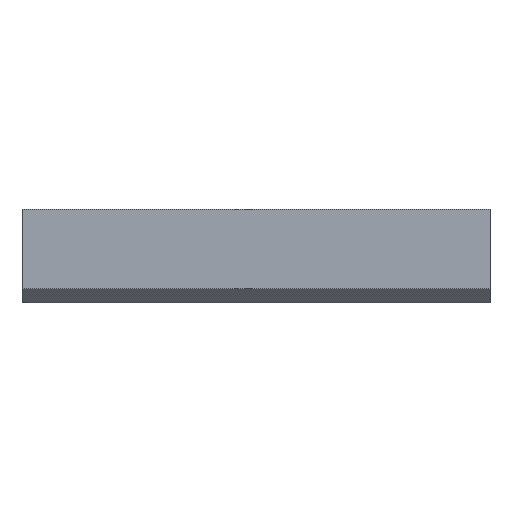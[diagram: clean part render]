
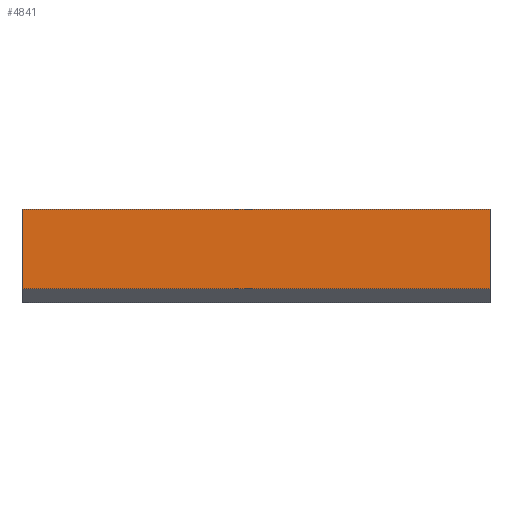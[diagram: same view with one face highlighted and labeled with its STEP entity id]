
A CAD part, front view. The second image highlights one B-rep face of the part: STEP entity #4841.
In plain terms, the highlighted planar face has unit normal (0, -1, 0).
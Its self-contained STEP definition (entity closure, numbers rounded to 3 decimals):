
#56 = VERTEX_POINT ( 'NONE', #2596 ) ;
#60 = LINE ( 'NONE', #2924, #971 ) ;
#185 = LINE ( 'NONE', #3955, #1247 ) ;
#450 = AXIS2_PLACEMENT_3D ( 'NONE', #1037, #4058, #1450 ) ;
#534 = ORIENTED_EDGE ( 'NONE', *, *, #2813, .F. ) ;
#759 = CARTESIAN_POINT ( 'NONE',  ( 100., 0., 3. ) ) ;
#885 = ORIENTED_EDGE ( 'NONE', *, *, #2858, .T. ) ;
#971 = VECTOR ( 'NONE', #3372, 1000. ) ;
#1037 = CARTESIAN_POINT ( 'NONE',  ( 0., 0., 0. ) ) ;
#1075 = VERTEX_POINT ( 'NONE', #759 ) ;
#1247 = VECTOR ( 'NONE', #4392, 1000. ) ;
#1403 = ORIENTED_EDGE ( 'NONE', *, *, #3348, .F. ) ;
#1450 = DIRECTION ( 'NONE',  ( 0., 0., -1. ) ) ;
#1788 = CARTESIAN_POINT ( 'NONE',  ( 0., 0., 3. ) ) ;
#1966 = LINE ( 'NONE', #4972, #4128 ) ;
#2349 = PLANE ( 'NONE',  #450 ) ;
#2595 = CARTESIAN_POINT ( 'NONE',  ( 100., 0., 11.5 ) ) ;
#2596 = CARTESIAN_POINT ( 'NONE',  ( 100., 0., 20. ) ) ;
#2813 = EDGE_CURVE ( 'NONE', #4981, #56, #185, .T. ) ;
#2858 = EDGE_CURVE ( 'NONE', #4631, #1075, #60, .T. ) ;
#2924 = CARTESIAN_POINT ( 'NONE',  ( 50., 0., 3. ) ) ;
#2988 = EDGE_CURVE ( 'NONE', #1075, #56, #3895, .T. ) ;
#3019 = DIRECTION ( 'NONE',  ( 0., 0., 1. ) ) ;
#3267 = CARTESIAN_POINT ( 'NONE',  ( 0., 0., 20. ) ) ;
#3348 = EDGE_CURVE ( 'NONE', #4631, #4981, #1966, .T. ) ;
#3372 = DIRECTION ( 'NONE',  ( 1., 0., 0. ) ) ;
#3895 = LINE ( 'NONE', #2595, #4878 ) ;
#3955 = CARTESIAN_POINT ( 'NONE',  ( 50., 0., 20. ) ) ;
#4058 = DIRECTION ( 'NONE',  ( 0., -1., 0. ) ) ;
#4128 = VECTOR ( 'NONE', #4139, 1000. ) ;
#4139 = DIRECTION ( 'NONE',  ( 0., 0., 1. ) ) ;
#4392 = DIRECTION ( 'NONE',  ( 1., 0., 0. ) ) ;
#4394 = FACE_OUTER_BOUND ( 'NONE', #4948, .T. ) ;
#4583 = ORIENTED_EDGE ( 'NONE', *, *, #2988, .T. ) ;
#4631 = VERTEX_POINT ( 'NONE', #1788 ) ;
#4841 = ADVANCED_FACE ( 'NONE', ( #4394 ), #2349, .T. ) ;
#4878 = VECTOR ( 'NONE', #3019, 1000. ) ;
#4948 = EDGE_LOOP ( 'NONE', ( #4583, #534, #1403, #885 ) ) ;
#4972 = CARTESIAN_POINT ( 'NONE',  ( 0., 0., 11.5 ) ) ;
#4981 = VERTEX_POINT ( 'NONE', #3267 ) ;
